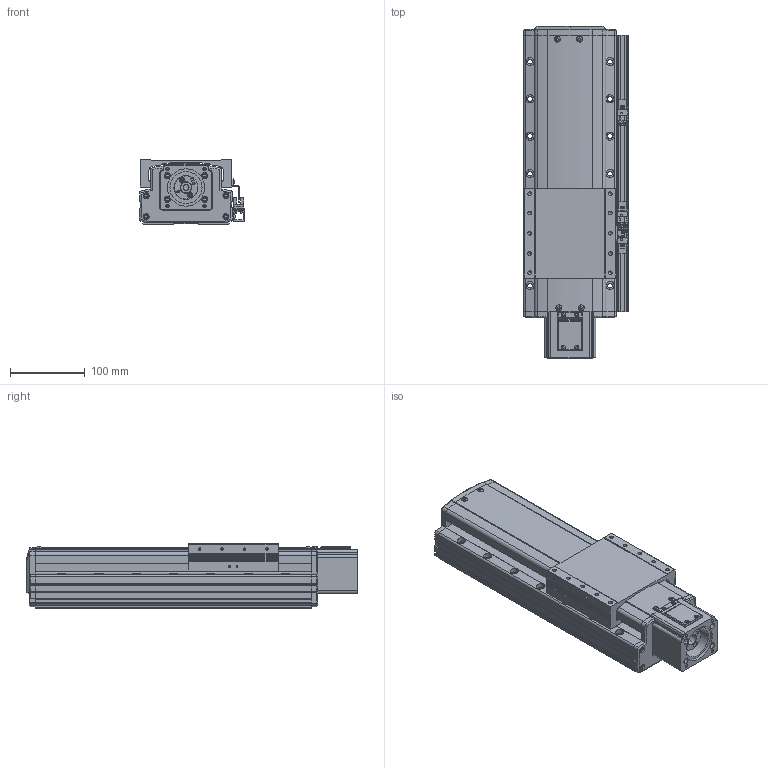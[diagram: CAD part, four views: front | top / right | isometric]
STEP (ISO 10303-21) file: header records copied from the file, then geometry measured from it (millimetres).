
FILE_DESCRIPTION(('STEP AP214'),'1');
FILE_NAME('Z:/Web/3D/PSA125/STP/PSA125-150 (3D)/PSA125ㅁㅁ-150S+3SR.stp','2014-06-20T08:52:18',(' '),(' '),'Spatial InterOp 3D',' ',' ');
FILE_SCHEMA(('automotive_design'));
Length unit declared in the file: millimetre
Products named in the file (53): 스크루 : Round - M4.0 x 10.0; RRCV-PA120; SLIDE; BASE; FRCV-PA120-1(기준 뿔 제거); RR1500; 스크루 : Round - M4.0 x 6.0; 너트 : Square - M10.0 x 220.7419; SSFX-SAN65; CPLCV-SAN65; 스크루 : Round - M3.0 x 6.0; MTHZ-PA120-S60A-3; 스크루 : Socket - M4.0 x 20.0; FRCV; NONE; EE-SX674; SBK-SX674-352; M3.0 x 6.0; SRL-16x17-380L; SGD-PA95; 스크루 : Round - M3.0 x 8.0
Bounding box: 141 x 444.6 x 86 mm (x, y, z)
Volume: 3581576.6 mm3; surface area: 449672.2 mm2
Topology: 53 solids, 87 shells, 3603 faces, 9234 edges, 5854 vertices
Faces by surface type: plane 1814, cylinder 1071, cone 433, torus 174, sphere 70, bspline 41
Entity records: 142038 total; most frequent: CARTESIAN_POINT 23091, DIRECTION 19364, ORIENTED_EDGE 18180, EDGE_CURVE 9090, AXIS2_PLACEMENT_3D 6899, VERTEX_POINT 5854, LINE 5566, VECTOR 5566
